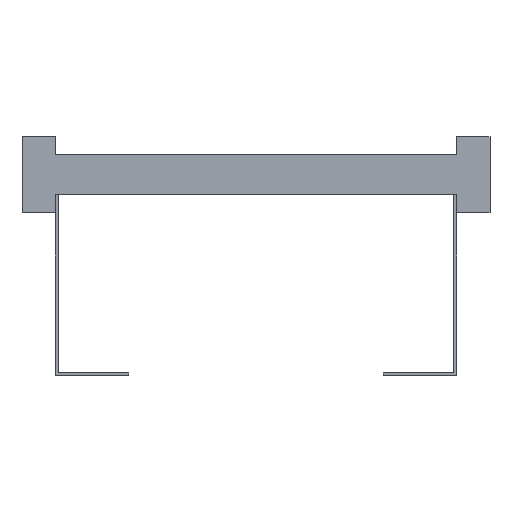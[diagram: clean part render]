
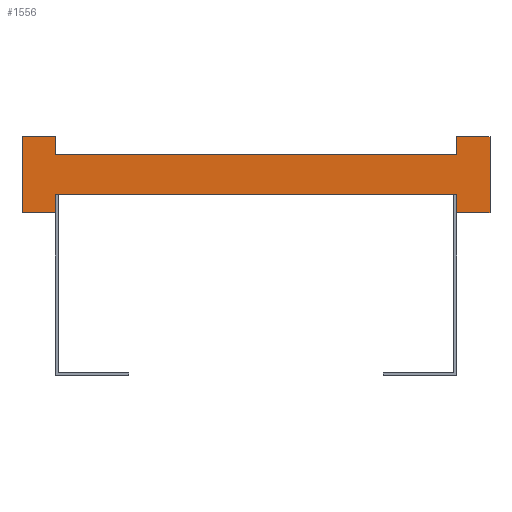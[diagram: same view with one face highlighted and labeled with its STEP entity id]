
A CAD part, front view. The second image highlights one B-rep face of the part: STEP entity #1556.
In plain terms, the highlighted planar face has unit normal (0, -1, 0).
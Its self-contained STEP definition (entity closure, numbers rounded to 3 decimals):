
#1=DIRECTION('',(0.,0.,1.));
#2=VECTOR('',#1,13.5);
#3=CARTESIAN_POINT('',(150.,0.,-28.5));
#4=LINE('',#3,#2);
#5=DIRECTION('',(0.,0.,-1.));
#6=VECTOR('',#5,13.5);
#7=CARTESIAN_POINT('',(-150.,0.,-15.));
#8=LINE('',#7,#6);
#9=DIRECTION('',(-1.,0.,0.));
#10=VECTOR('',#9,25.);
#11=CARTESIAN_POINT('',(-150.,0.,-28.5));
#12=LINE('',#11,#10);
#13=DIRECTION('',(0.,0.,1.));
#14=VECTOR('',#13,57.);
#15=CARTESIAN_POINT('',(-175.,0.,-28.5));
#16=LINE('',#15,#14);
#17=DIRECTION('',(1.,0.,0.));
#18=VECTOR('',#17,25.);
#19=CARTESIAN_POINT('',(-175.,0.,28.5));
#20=LINE('',#19,#18);
#21=DIRECTION('',(0.,0.,-1.));
#22=VECTOR('',#21,13.5);
#23=CARTESIAN_POINT('',(-150.,0.,28.5));
#24=LINE('',#23,#22);
#25=DIRECTION('',(0.,0.,1.));
#26=VECTOR('',#25,13.5);
#27=CARTESIAN_POINT('',(150.,0.,15.));
#28=LINE('',#27,#26);
#29=DIRECTION('',(1.,0.,0.));
#30=VECTOR('',#29,25.);
#31=CARTESIAN_POINT('',(150.,0.,28.5));
#32=LINE('',#31,#30);
#33=DIRECTION('',(0.,0.,-1.));
#34=VECTOR('',#33,57.);
#35=CARTESIAN_POINT('',(175.,0.,28.5));
#36=LINE('',#35,#34);
#37=DIRECTION('',(-1.,0.,0.));
#38=VECTOR('',#37,25.);
#39=CARTESIAN_POINT('',(175.,0.,-28.5));
#40=LINE('',#39,#38);
#1137=DIRECTION('',(1.,0.,0.));
#1138=VECTOR('',#1137,300.);
#1139=CARTESIAN_POINT('',(-150.,0.,-15.));
#1140=LINE('',#1139,#1138);
#1149=DIRECTION('',(1.,0.,0.));
#1150=VECTOR('',#1149,300.);
#1151=CARTESIAN_POINT('',(-150.,0.,15.));
#1152=LINE('',#1151,#1150);
#1153=CARTESIAN_POINT('',(-175.,0.,28.5));
#1154=CARTESIAN_POINT('',(-150.,0.,28.5));
#1155=VERTEX_POINT('',#1153);
#1156=VERTEX_POINT('',#1154);
#1157=CARTESIAN_POINT('',(-150.,0.,-28.5));
#1158=CARTESIAN_POINT('',(-175.,0.,-28.5));
#1159=VERTEX_POINT('',#1157);
#1160=VERTEX_POINT('',#1158);
#1161=CARTESIAN_POINT('',(175.,0.,28.5));
#1162=CARTESIAN_POINT('',(175.,0.,-28.5));
#1163=VERTEX_POINT('',#1161);
#1164=VERTEX_POINT('',#1162);
#1165=CARTESIAN_POINT('',(150.,0.,-28.5));
#1166=VERTEX_POINT('',#1165);
#1167=CARTESIAN_POINT('',(150.,0.,28.5));
#1168=VERTEX_POINT('',#1167);
#1185=CARTESIAN_POINT('',(-150.,0.,-15.));
#1187=VERTEX_POINT('',#1185);
#1189=CARTESIAN_POINT('',(-150.,0.,15.));
#1191=VERTEX_POINT('',#1189);
#1193=CARTESIAN_POINT('',(150.,0.,-15.));
#1195=VERTEX_POINT('',#1193);
#1197=CARTESIAN_POINT('',(150.,0.,15.));
#1199=VERTEX_POINT('',#1197);
#1525=CARTESIAN_POINT('',(0.,0.,0.));
#1526=DIRECTION('',(0.,1.,0.));
#1527=DIRECTION('',(1.,0.,0.));
#1528=AXIS2_PLACEMENT_3D('',#1525,#1526,#1527);
#1529=PLANE('',#1528);
#1531=ORIENTED_EDGE('',*,*,#1530,.T.);
#1533=ORIENTED_EDGE('',*,*,#1532,.F.);
#1535=ORIENTED_EDGE('',*,*,#1534,.T.);
#1537=ORIENTED_EDGE('',*,*,#1536,.T.);
#1539=ORIENTED_EDGE('',*,*,#1538,.T.);
#1541=ORIENTED_EDGE('',*,*,#1540,.T.);
#1543=ORIENTED_EDGE('',*,*,#1542,.T.);
#1545=ORIENTED_EDGE('',*,*,#1544,.T.);
#1547=ORIENTED_EDGE('',*,*,#1546,.T.);
#1549=ORIENTED_EDGE('',*,*,#1548,.T.);
#1551=ORIENTED_EDGE('',*,*,#1550,.T.);
#1553=ORIENTED_EDGE('',*,*,#1552,.T.);
#1554=EDGE_LOOP('',(#1531,#1533,#1535,#1537,#1539,#1541,#1543,#1545,#1547,#1549,
#1551,#1553));
#1555=FACE_OUTER_BOUND('',#1554,.F.);
#1556=ADVANCED_FACE('',(#1555),#1529,.F.);
#1530=EDGE_CURVE('',#1166,#1195,#4,.T.);
#1532=EDGE_CURVE('',#1187,#1195,#1140,.T.);
#1534=EDGE_CURVE('',#1187,#1159,#8,.T.);
#1536=EDGE_CURVE('',#1159,#1160,#12,.T.);
#1538=EDGE_CURVE('',#1160,#1155,#16,.T.);
#1540=EDGE_CURVE('',#1155,#1156,#20,.T.);
#1542=EDGE_CURVE('',#1156,#1191,#24,.T.);
#1544=EDGE_CURVE('',#1191,#1199,#1152,.T.);
#1546=EDGE_CURVE('',#1199,#1168,#28,.T.);
#1548=EDGE_CURVE('',#1168,#1163,#32,.T.);
#1550=EDGE_CURVE('',#1163,#1164,#36,.T.);
#1552=EDGE_CURVE('',#1164,#1166,#40,.T.);
